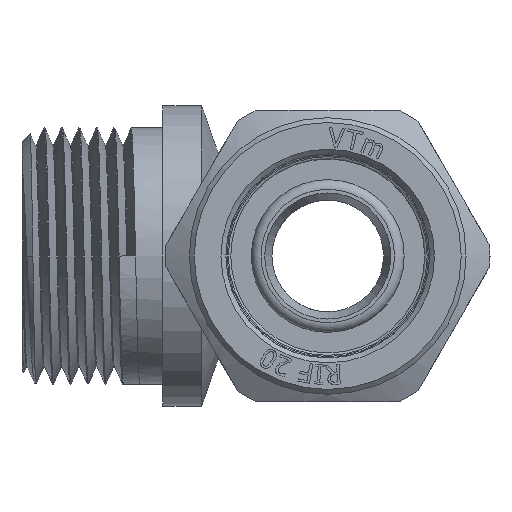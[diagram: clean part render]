
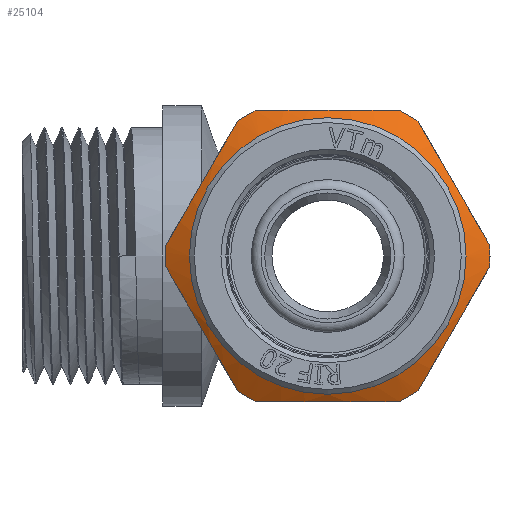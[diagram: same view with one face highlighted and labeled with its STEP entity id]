
A CAD part, left-side view. The second image highlights one B-rep face of the part: STEP entity #25104.
In plain terms, the highlighted conical face has half-angle 60 degrees and reference radius 15.484 mm.
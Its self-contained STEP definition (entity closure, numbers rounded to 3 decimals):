
#477=(
BOUNDED_CURVE()
B_SPLINE_CURVE(2,(#44121,#44122,#44123),.UNSPECIFIED.,.F.,.F.)
B_SPLINE_CURVE_WITH_KNOTS((3,3),(0.,1.489),.UNSPECIFIED.)
CURVE()
GEOMETRIC_REPRESENTATION_ITEM()
RATIONAL_B_SPLINE_CURVE((1.,1.114,1.))
REPRESENTATION_ITEM('')
);
#479=(
BOUNDED_CURVE()
B_SPLINE_CURVE(2,(#44134,#44135,#44136),.UNSPECIFIED.,.F.,.F.)
B_SPLINE_CURVE_WITH_KNOTS((3,3),(0.,1.489),.UNSPECIFIED.)
CURVE()
GEOMETRIC_REPRESENTATION_ITEM()
RATIONAL_B_SPLINE_CURVE((1.,1.114,1.))
REPRESENTATION_ITEM('')
);
#481=(
BOUNDED_CURVE()
B_SPLINE_CURVE(2,(#44147,#44148,#44149),.UNSPECIFIED.,.F.,.F.)
B_SPLINE_CURVE_WITH_KNOTS((3,3),(0.,1.489),.UNSPECIFIED.)
CURVE()
GEOMETRIC_REPRESENTATION_ITEM()
RATIONAL_B_SPLINE_CURVE((1.,1.114,1.))
REPRESENTATION_ITEM('')
);
#483=(
BOUNDED_CURVE()
B_SPLINE_CURVE(2,(#44160,#44161,#44162),.UNSPECIFIED.,.F.,.F.)
B_SPLINE_CURVE_WITH_KNOTS((3,3),(0.,1.489),.UNSPECIFIED.)
CURVE()
GEOMETRIC_REPRESENTATION_ITEM()
RATIONAL_B_SPLINE_CURVE((1.,1.114,1.))
REPRESENTATION_ITEM('')
);
#485=(
BOUNDED_CURVE()
B_SPLINE_CURVE(2,(#44173,#44174,#44175),.UNSPECIFIED.,.F.,.F.)
B_SPLINE_CURVE_WITH_KNOTS((3,3),(0.,1.489),.UNSPECIFIED.)
CURVE()
GEOMETRIC_REPRESENTATION_ITEM()
RATIONAL_B_SPLINE_CURVE((1.,1.114,1.))
REPRESENTATION_ITEM('')
);
#487=(
BOUNDED_CURVE()
B_SPLINE_CURVE(2,(#44186,#44187,#44188),.UNSPECIFIED.,.F.,.F.)
B_SPLINE_CURVE_WITH_KNOTS((3,3),(0.,1.489),.UNSPECIFIED.)
CURVE()
GEOMETRIC_REPRESENTATION_ITEM()
RATIONAL_B_SPLINE_CURVE((1.,1.114,1.))
REPRESENTATION_ITEM('')
);
#1350=CONICAL_SURFACE('',#26307,15.484,1.047);
#2071=FACE_OUTER_BOUND('',#3506,.T.);
#3506=EDGE_LOOP('',(#20047,#20048,#20049,#20050,#20051,#20052,#20053,#20054,
#20055,#20056,#20057,#20058,#20059,#20060,#20061,#20062,#20063));
#4421=CIRCLE('',#26292,16.717);
#4422=CIRCLE('',#26294,16.717);
#4423=CIRCLE('',#26295,16.717);
#4426=CIRCLE('',#26299,16.717);
#4428=CIRCLE('',#26302,16.717);
#4430=CIRCLE('',#26305,16.717);
#4432=CIRCLE('',#26308,14.25);
#4433=CIRCLE('',#26309,14.25);
#4434=CIRCLE('',#26310,16.717);
#7419=LINE('',#45407,#9100);
#9100=VECTOR('',#29029,15.484);
#10918=VERTEX_POINT('',#44118);
#10919=VERTEX_POINT('',#44120);
#10922=VERTEX_POINT('',#44131);
#10923=VERTEX_POINT('',#44133);
#10926=VERTEX_POINT('',#44144);
#10927=VERTEX_POINT('',#44146);
#10930=VERTEX_POINT('',#44157);
#10931=VERTEX_POINT('',#44159);
#10934=VERTEX_POINT('',#44170);
#10935=VERTEX_POINT('',#44172);
#10938=VERTEX_POINT('',#44183);
#10939=VERTEX_POINT('',#44185);
#11154=VERTEX_POINT('',#45390);
#11156=VERTEX_POINT('',#45406);
#11157=VERTEX_POINT('',#45408);
#14069=EDGE_CURVE('',#10919,#10918,#477,.T.);
#14073=EDGE_CURVE('',#10923,#10922,#479,.T.);
#14077=EDGE_CURVE('',#10927,#10926,#481,.T.);
#14081=EDGE_CURVE('',#10931,#10930,#483,.T.);
#14085=EDGE_CURVE('',#10935,#10934,#485,.T.);
#14089=EDGE_CURVE('',#10939,#10938,#487,.T.);
#14413=EDGE_CURVE('',#10939,#10918,#4421,.T.);
#14414=EDGE_CURVE('',#10935,#11154,#4422,.T.);
#14415=EDGE_CURVE('',#11154,#10938,#4423,.T.);
#14418=EDGE_CURVE('',#10931,#10934,#4426,.T.);
#14420=EDGE_CURVE('',#10927,#10930,#4428,.T.);
#14422=EDGE_CURVE('',#10923,#10926,#4430,.T.);
#14424=EDGE_CURVE('',#11154,#11156,#7419,.T.);
#14425=EDGE_CURVE('',#11156,#11157,#4432,.T.);
#14426=EDGE_CURVE('',#11157,#11156,#4433,.T.);
#14427=EDGE_CURVE('',#10919,#10922,#4434,.T.);
#20047=ORIENTED_EDGE('',*,*,#14069,.T.);
#20048=ORIENTED_EDGE('',*,*,#14413,.F.);
#20049=ORIENTED_EDGE('',*,*,#14089,.T.);
#20050=ORIENTED_EDGE('',*,*,#14415,.F.);
#20051=ORIENTED_EDGE('',*,*,#14424,.T.);
#20052=ORIENTED_EDGE('',*,*,#14425,.T.);
#20053=ORIENTED_EDGE('',*,*,#14426,.T.);
#20054=ORIENTED_EDGE('',*,*,#14424,.F.);
#20055=ORIENTED_EDGE('',*,*,#14414,.F.);
#20056=ORIENTED_EDGE('',*,*,#14085,.T.);
#20057=ORIENTED_EDGE('',*,*,#14418,.F.);
#20058=ORIENTED_EDGE('',*,*,#14081,.T.);
#20059=ORIENTED_EDGE('',*,*,#14420,.F.);
#20060=ORIENTED_EDGE('',*,*,#14077,.T.);
#20061=ORIENTED_EDGE('',*,*,#14422,.F.);
#20062=ORIENTED_EDGE('',*,*,#14073,.T.);
#20063=ORIENTED_EDGE('',*,*,#14427,.F.);
#25104=ADVANCED_FACE('',(#2071),#1350,.T.);
#26292=AXIS2_PLACEMENT_3D('',#45388,#28997,#28998);
#26294=AXIS2_PLACEMENT_3D('',#45391,#29001,#29002);
#26295=AXIS2_PLACEMENT_3D('',#45392,#29003,#29004);
#26299=AXIS2_PLACEMENT_3D('',#45397,#29011,#29012);
#26302=AXIS2_PLACEMENT_3D('',#45400,#29017,#29018);
#26305=AXIS2_PLACEMENT_3D('',#45403,#29023,#29024);
#26307=AXIS2_PLACEMENT_3D('',#45405,#29027,#29028);
#26308=AXIS2_PLACEMENT_3D('',#45409,#29030,#29031);
#26309=AXIS2_PLACEMENT_3D('',#45410,#29032,#29033);
#26310=AXIS2_PLACEMENT_3D('',#45411,#29034,#29035);
#28997=DIRECTION('center_axis',(1.,0.,0.));
#28998=DIRECTION('ref_axis',(0.,0.,1.));
#29001=DIRECTION('center_axis',(1.,0.,0.));
#29002=DIRECTION('ref_axis',(0.,0.,1.));
#29003=DIRECTION('center_axis',(1.,0.,0.));
#29004=DIRECTION('ref_axis',(0.,0.,1.));
#29011=DIRECTION('center_axis',(1.,0.,0.));
#29012=DIRECTION('ref_axis',(0.,0.,1.));
#29017=DIRECTION('center_axis',(1.,0.,0.));
#29018=DIRECTION('ref_axis',(0.,0.,1.));
#29023=DIRECTION('center_axis',(1.,0.,0.));
#29024=DIRECTION('ref_axis',(0.,0.,1.));
#29027=DIRECTION('center_axis',(1.,0.,0.));
#29028=DIRECTION('ref_axis',(0.,1.,0.));
#29029=DIRECTION('',(-0.5,0.866,0.));
#29030=DIRECTION('center_axis',(1.,0.,0.));
#29031=DIRECTION('ref_axis',(0.,0.,1.));
#29032=DIRECTION('center_axis',(1.,0.,0.));
#29033=DIRECTION('ref_axis',(0.,0.,1.));
#29034=DIRECTION('center_axis',(1.,0.,0.));
#29035=DIRECTION('ref_axis',(0.,0.,1.));
#44118=CARTESIAN_POINT('',(-34.032,-7.38,-15.));
#44120=CARTESIAN_POINT('',(-34.032,7.38,-15.));
#44121=CARTESIAN_POINT('Ctrl Pts',(-34.032,7.38,-15.));
#44122=CARTESIAN_POINT('Ctrl Pts',(-35.913,0.,
-15.));
#44123=CARTESIAN_POINT('Ctrl Pts',(-34.032,-7.38,
-15.));
#44131=CARTESIAN_POINT('',(-34.032,9.3,-13.892));
#44133=CARTESIAN_POINT('',(-34.032,16.681,-1.108));
#44134=CARTESIAN_POINT('Ctrl Pts',(-34.032,16.681,-1.108));
#44135=CARTESIAN_POINT('Ctrl Pts',(-35.913,12.99,-7.5));
#44136=CARTESIAN_POINT('Ctrl Pts',(-34.032,9.3,-13.892));
#44144=CARTESIAN_POINT('',(-34.032,16.681,1.108));
#44146=CARTESIAN_POINT('',(-34.032,9.3,13.892));
#44147=CARTESIAN_POINT('Ctrl Pts',(-34.032,9.3,13.892));
#44148=CARTESIAN_POINT('Ctrl Pts',(-35.913,12.99,7.5));
#44149=CARTESIAN_POINT('Ctrl Pts',(-34.032,16.681,1.108));
#44157=CARTESIAN_POINT('',(-34.032,7.38,15.));
#44159=CARTESIAN_POINT('',(-34.032,-7.38,15.));
#44160=CARTESIAN_POINT('Ctrl Pts',(-34.032,-7.38,
15.));
#44161=CARTESIAN_POINT('Ctrl Pts',(-35.913,0.,
15.));
#44162=CARTESIAN_POINT('Ctrl Pts',(-34.032,7.38,15.));
#44170=CARTESIAN_POINT('',(-34.032,-9.3,13.892));
#44172=CARTESIAN_POINT('',(-34.032,-16.681,1.108));
#44173=CARTESIAN_POINT('Ctrl Pts',(-34.032,-16.681,
1.108));
#44174=CARTESIAN_POINT('Ctrl Pts',(-35.913,-12.99,
7.5));
#44175=CARTESIAN_POINT('Ctrl Pts',(-34.032,-9.3,
13.892));
#44183=CARTESIAN_POINT('',(-34.032,-16.681,-1.108));
#44185=CARTESIAN_POINT('',(-34.032,-9.3,-13.892));
#44186=CARTESIAN_POINT('Ctrl Pts',(-34.032,-9.3,
-13.892));
#44187=CARTESIAN_POINT('Ctrl Pts',(-35.913,-12.99,
-7.5));
#44188=CARTESIAN_POINT('Ctrl Pts',(-34.032,-16.681,
-1.108));
#45388=CARTESIAN_POINT('Origin',(-34.032,0.,
0.));
#45390=CARTESIAN_POINT('',(-34.032,-16.717,0.));
#45391=CARTESIAN_POINT('Origin',(-34.032,0.,
0.));
#45392=CARTESIAN_POINT('Origin',(-34.032,0.,
0.));
#45397=CARTESIAN_POINT('Origin',(-34.032,0.,
0.));
#45400=CARTESIAN_POINT('Origin',(-34.032,0.,
0.));
#45403=CARTESIAN_POINT('Origin',(-34.032,0.,
0.));
#45405=CARTESIAN_POINT('Origin',(-34.744,0.,
0.));
#45406=CARTESIAN_POINT('',(-35.457,-14.25,0.));
#45407=CARTESIAN_POINT('',(-34.744,-15.484,0.));
#45408=CARTESIAN_POINT('',(-35.457,14.25,0.));
#45409=CARTESIAN_POINT('Origin',(-35.457,0.,
0.));
#45410=CARTESIAN_POINT('Origin',(-35.457,0.,
0.));
#45411=CARTESIAN_POINT('Origin',(-34.032,0.,
0.));
